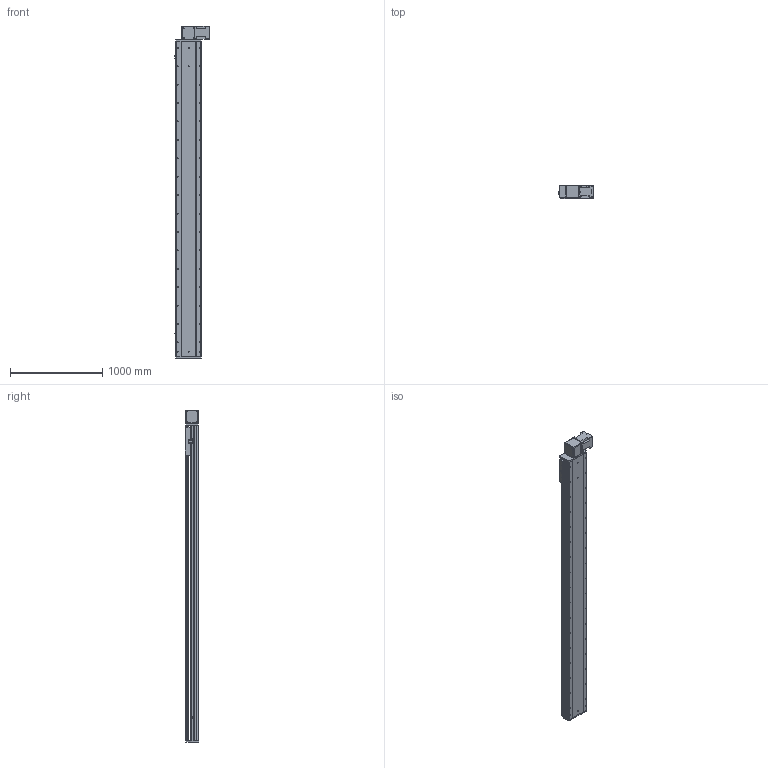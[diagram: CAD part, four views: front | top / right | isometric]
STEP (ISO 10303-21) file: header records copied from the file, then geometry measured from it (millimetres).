
FILE_DESCRIPTION (( 'STEP AP214' ), '1' );
FILE_NAME ('RTB28S-XX-3000-BL-M100-XX-C4.STEP', '2025-12-22T02:36:30', ( '' ), ( '' ), 'SwSTEP 2.0', 'SolidWorks 2018', '' );
FILE_SCHEMA (( 'AUTOMOTIVE_DESIGN' ));
Length unit declared in the file: millimetre
Products named in the file (4): RTB28S-GY-011^RTB28S-XX-XX-BL-M100-XX-C4; RTB28S-GY-008^RTB28S-XX-XX-BL-M100-XX-C4; RTB28S-XX-3000-BL-M100-XX-C4; RTB28S-GY-004^RTB28S-XX-XX-BL-M100-XX-C4
Assembly tree (3 placements, depth 2):
  RTB28S-XX-3000-BL-M100-XX-C4
    RTB28S-GY-011^RTB28S-XX-XX-BL-M100-XX-C4
    RTB28S-GY-004^RTB28S-XX-XX-BL-M100-XX-C4
    RTB28S-GY-008^RTB28S-XX-XX-BL-M100-XX-C4
Bounding box: 380.7 x 145 x 3607 mm (x, y, z)
Volume: 61108024.6 mm3; surface area: 5704135.1 mm2
Topology: 3 solids, 4 shells, 888 faces, 2388 edges, 1528 vertices
Faces by surface type: cylinder 439, plane 365, cone 80, torus 4
Entity records: 34373 total; most frequent: CARTESIAN_POINT 6502, DIRECTION 5082, ORIENTED_EDGE 4712, EDGE_CURVE 2356, AXIS2_PLACEMENT_3D 1876, VERTEX_POINT 1528, VECTOR 1330, LINE 1330
